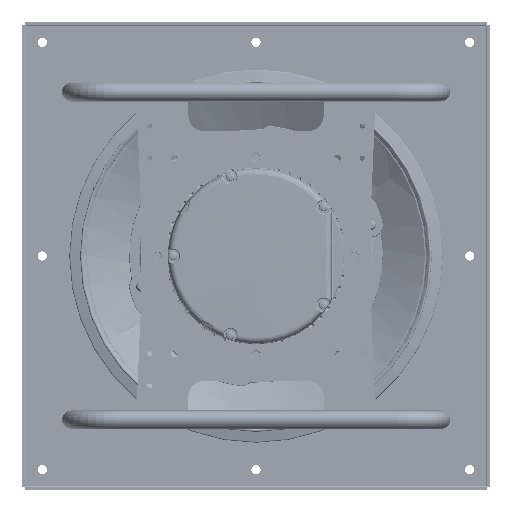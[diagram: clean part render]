
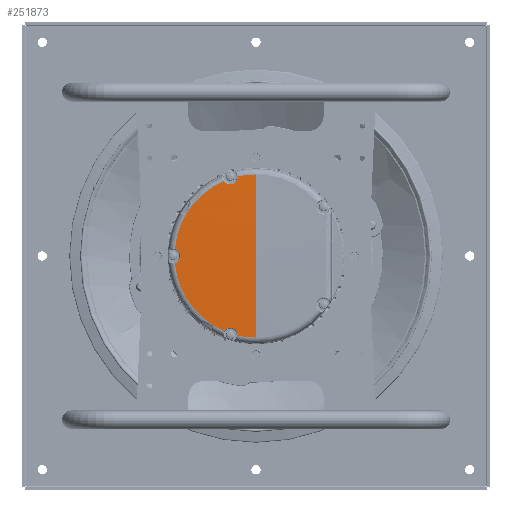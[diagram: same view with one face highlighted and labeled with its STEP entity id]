
A CAD part, left-side view. The second image highlights one B-rep face of the part: STEP entity #251873.
In plain terms, the highlighted spherical face has radius 5000 mm.
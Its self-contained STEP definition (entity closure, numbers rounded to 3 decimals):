
#73002=CARTESIAN_POINT('',(-114.385,17.481,
-76.417));
#73003=CARTESIAN_POINT('',(-114.391,17.466,
-76.065));
#73004=CARTESIAN_POINT('',(-114.401,17.485,
-75.373));
#73005=CARTESIAN_POINT('',(-114.416,17.664,
-74.346));
#73006=CARTESIAN_POINT('',(-114.429,17.974,
-73.39));
#73007=CARTESIAN_POINT('',(-114.441,18.404,
-72.499));
#73008=CARTESIAN_POINT('',(-114.45,18.945,
-71.683));
#73009=CARTESIAN_POINT('',(-114.458,19.586,
-70.951));
#73010=CARTESIAN_POINT('',(-114.464,20.32,
-70.31));
#73011=CARTESIAN_POINT('',(-114.469,21.135,
-69.772));
#73012=CARTESIAN_POINT('',(-114.471,22.017,
-69.347));
#73013=CARTESIAN_POINT('',(-114.471,22.949,
-69.044));
#73014=CARTESIAN_POINT('',(-114.469,23.913,
-68.869));
#73015=CARTESIAN_POINT('',(-114.464,24.888,
-68.826));
#73016=CARTESIAN_POINT('',(-114.458,25.858,
-68.913));
#73017=CARTESIAN_POINT('',(-114.45,26.808,
-69.128));
#73018=CARTESIAN_POINT('',(-114.441,27.724,
-69.47));
#73019=CARTESIAN_POINT('',(-114.429,28.596,
-69.938));
#73020=CARTESIAN_POINT('',(-114.416,29.409,
-70.53));
#73021=CARTESIAN_POINT('',(-114.401,30.157,
-71.256));
#73022=CARTESIAN_POINT('',(-114.391,30.58,
-71.804));
#73023=CARTESIAN_POINT('',(-114.385,30.774,
-72.098));
#73025=CARTESIAN_POINT('',(-114.385,0.,0.));
#73026=DIRECTION('',(1.,0.,0.));
#73027=DIRECTION('',(0.,0.393,-0.92));
#73028=AXIS2_PLACEMENT_3D('',#73025,#73026,#73027);
#73030=CARTESIAN_POINT('',(-114.385,78.079,
-6.988));
#73031=CARTESIAN_POINT('',(-114.391,77.74,
-6.895));
#73032=CARTESIAN_POINT('',(-114.401,77.087,
-6.662));
#73033=CARTESIAN_POINT('',(-114.416,76.165,
-6.175));
#73034=CARTESIAN_POINT('',(-114.429,75.352,
-5.584));
#73035=CARTESIAN_POINT('',(-114.441,74.637,
-4.9));
#73036=CARTESIAN_POINT('',(-114.45,74.029,
-4.134));
#73037=CARTESIAN_POINT('',(-114.458,73.53,
-3.297));
#73038=CARTESIAN_POINT('',(-114.464,73.148,
-2.402));
#73039=CARTESIAN_POINT('',(-114.469,72.888,
-1.461));
#73040=CARTESIAN_POINT('',(-114.471,72.756,
-0.49));
#73041=CARTESIAN_POINT('',(-114.471,72.756,
0.49));
#73042=CARTESIAN_POINT('',(-114.469,72.888,
1.461));
#73043=CARTESIAN_POINT('',(-114.464,73.148,
2.402));
#73044=CARTESIAN_POINT('',(-114.458,73.53,
3.297));
#73045=CARTESIAN_POINT('',(-114.45,74.029,
4.134));
#73046=CARTESIAN_POINT('',(-114.441,74.637,
4.9));
#73047=CARTESIAN_POINT('',(-114.429,75.352,
5.584));
#73048=CARTESIAN_POINT('',(-114.416,76.165,
6.175));
#73049=CARTESIAN_POINT('',(-114.401,77.087,
6.662));
#73050=CARTESIAN_POINT('',(-114.391,77.74,
6.895));
#73051=CARTESIAN_POINT('',(-114.385,78.079,
6.988));
#73053=CARTESIAN_POINT('',(-114.385,0.,0.));
#73054=DIRECTION('',(1.,0.,0.));
#73055=DIRECTION('',(0.,0.996,0.089));
#73056=AXIS2_PLACEMENT_3D('',#73053,#73054,#73055);
#73058=CARTESIAN_POINT('',(-114.385,30.774,
72.098));
#73059=CARTESIAN_POINT('',(-114.391,30.58,
71.804));
#73060=CARTESIAN_POINT('',(-114.401,30.157,
71.256));
#73061=CARTESIAN_POINT('',(-114.416,29.409,
70.53));
#73062=CARTESIAN_POINT('',(-114.429,28.596,
69.938));
#73063=CARTESIAN_POINT('',(-114.441,27.724,
69.47));
#73064=CARTESIAN_POINT('',(-114.45,26.808,
69.128));
#73065=CARTESIAN_POINT('',(-114.458,25.858,
68.913));
#73066=CARTESIAN_POINT('',(-114.464,24.888,
68.826));
#73067=CARTESIAN_POINT('',(-114.469,23.913,
68.869));
#73068=CARTESIAN_POINT('',(-114.471,22.949,
69.044));
#73069=CARTESIAN_POINT('',(-114.471,22.017,
69.347));
#73070=CARTESIAN_POINT('',(-114.469,21.135,
69.772));
#73071=CARTESIAN_POINT('',(-114.464,20.32,
70.31));
#73072=CARTESIAN_POINT('',(-114.458,19.586,
70.951));
#73073=CARTESIAN_POINT('',(-114.45,18.945,
71.683));
#73074=CARTESIAN_POINT('',(-114.441,18.404,
72.499));
#73075=CARTESIAN_POINT('',(-114.429,17.974,
73.39));
#73076=CARTESIAN_POINT('',(-114.416,17.664,
74.346));
#73077=CARTESIAN_POINT('',(-114.401,17.485,
75.373));
#73078=CARTESIAN_POINT('',(-114.391,17.466,
76.065));
#73079=CARTESIAN_POINT('',(-114.385,17.481,
76.417));
#73081=CARTESIAN_POINT('',(-114.385,0.,0.));
#73082=DIRECTION('',(1.,0.,0.));
#73083=DIRECTION('',(0.,0.223,0.975));
#73084=AXIS2_PLACEMENT_3D('',#73081,#73082,#73083);
#73086=CARTESIAN_POINT('',(4885.,0.,0.));
#73087=DIRECTION('',(0.,-1.,0.));
#73088=DIRECTION('',(-1.,0.,0.016));
#73089=AXIS2_PLACEMENT_3D('',#73086,#73087,#73088);
#73091=CARTESIAN_POINT('',(4885.,0.,0.));
#73092=DIRECTION('',(0.,1.,0.));
#73093=DIRECTION('',(-1.,0.,-0.016));
#73094=AXIS2_PLACEMENT_3D('',#73091,#73092,#73093);
#73096=CARTESIAN_POINT('',(-114.385,0.,0.));
#73097=DIRECTION('',(1.,0.,0.));
#73098=DIRECTION('',(0.,0.,-1.));
#73099=AXIS2_PLACEMENT_3D('',#73096,#73097,#73098);
#91071=VERTEX_POINT('',#73058);
#91072=VERTEX_POINT('',#73079);
#91075=VERTEX_POINT('',#73030);
#91076=VERTEX_POINT('',#73051);
#91079=VERTEX_POINT('',#73002);
#91080=VERTEX_POINT('',#73023);
#91104=CARTESIAN_POINT('',(-114.385,0.,78.391));
#91105=CARTESIAN_POINT('',(-115.,0.,0.));
#91106=VERTEX_POINT('',#91104);
#91107=VERTEX_POINT('',#91105);
#91108=CARTESIAN_POINT('',(-114.385,0.,-78.391));
#91109=VERTEX_POINT('',#91108);
#251854=CARTESIAN_POINT('',(4885.,0.,0.));
#251855=DIRECTION('',(1.,0.,0.));
#251856=DIRECTION('',(0.,0.,-1.));
#251857=AXIS2_PLACEMENT_3D('',#251854,#251855,#251856);
#251858=SPHERICAL_SURFACE('',#251857,5000.);
#251860=ORIENTED_EDGE('',*,*,#251859,.T.);
#251861=ORIENTED_EDGE('',*,*,#250533,.T.);
#251863=ORIENTED_EDGE('',*,*,#251862,.T.);
#251864=ORIENTED_EDGE('',*,*,#250521,.T.);
#251866=ORIENTED_EDGE('',*,*,#251865,.T.);
#251867=ORIENTED_EDGE('',*,*,#250509,.T.);
#251868=ORIENTED_EDGE('',*,*,#251597,.T.);
#251869=ORIENTED_EDGE('',*,*,#251595,.F.);
#251870=ORIENTED_EDGE('',*,*,#250545,.T.);
#251871=EDGE_LOOP('',(#251860,#251861,#251863,#251864,#251866,#251867,#251868,
#251869,#251870));
#251872=FACE_OUTER_BOUND('',#251871,.F.);
#73024=B_SPLINE_CURVE_WITH_KNOTS('',3,(#73002,#73003,#73004,#73005,#73006,
#73007,#73008,#73009,#73010,#73011,#73012,#73013,#73014,#73015,#73016,#73017,
#73018,#73019,#73020,#73021,#73022,#73023),.UNSPECIFIED.,.F.,.F.,(4,1,1,1,1,1,1,
1,1,1,1,1,1,1,1,1,1,1,1,4),(0.,0.053,0.105,
0.158,0.211,0.263,0.316,
0.368,0.421,0.474,0.526,
0.579,0.632,0.684,0.737,
0.789,0.842,0.895,0.947,1.),
.UNSPECIFIED.);
#73029=CIRCLE('',#73028,78.391);
#73052=B_SPLINE_CURVE_WITH_KNOTS('',3,(#73030,#73031,#73032,#73033,#73034,
#73035,#73036,#73037,#73038,#73039,#73040,#73041,#73042,#73043,#73044,#73045,
#73046,#73047,#73048,#73049,#73050,#73051),.UNSPECIFIED.,.F.,.F.,(4,1,1,1,1,1,1,
1,1,1,1,1,1,1,1,1,1,1,1,4),(0.,0.053,0.105,
0.158,0.211,0.263,0.316,
0.368,0.421,0.474,0.526,
0.579,0.632,0.684,0.737,
0.789,0.842,0.895,0.947,1.),
.UNSPECIFIED.);
#73057=CIRCLE('',#73056,78.391);
#73080=B_SPLINE_CURVE_WITH_KNOTS('',3,(#73058,#73059,#73060,#73061,#73062,
#73063,#73064,#73065,#73066,#73067,#73068,#73069,#73070,#73071,#73072,#73073,
#73074,#73075,#73076,#73077,#73078,#73079),.UNSPECIFIED.,.F.,.F.,(4,1,1,1,1,1,1,
1,1,1,1,1,1,1,1,1,1,1,1,4),(0.,0.053,0.105,
0.158,0.211,0.263,0.316,
0.368,0.421,0.474,0.526,
0.579,0.632,0.684,0.737,
0.789,0.842,0.895,0.947,1.),
.UNSPECIFIED.);
#73085=CIRCLE('',#73084,78.391);
#73090=CIRCLE('',#73089,5000.);
#73095=CIRCLE('',#73094,5000.);
#73100=CIRCLE('',#73099,78.391);
#250509=EDGE_CURVE('',#91072,#91106,#73085,.T.);
#250521=EDGE_CURVE('',#91076,#91071,#73057,.T.);
#250533=EDGE_CURVE('',#91080,#91075,#73029,.T.);
#250545=EDGE_CURVE('',#91109,#91079,#73100,.T.);
#251595=EDGE_CURVE('',#91109,#91107,#73095,.T.);
#251597=EDGE_CURVE('',#91106,#91107,#73090,.T.);
#251859=EDGE_CURVE('',#91079,#91080,#73024,.T.);
#251862=EDGE_CURVE('',#91075,#91076,#73052,.T.);
#251865=EDGE_CURVE('',#91071,#91072,#73080,.T.);
#251873=ADVANCED_FACE('',(#251872),#251858,.T.);
